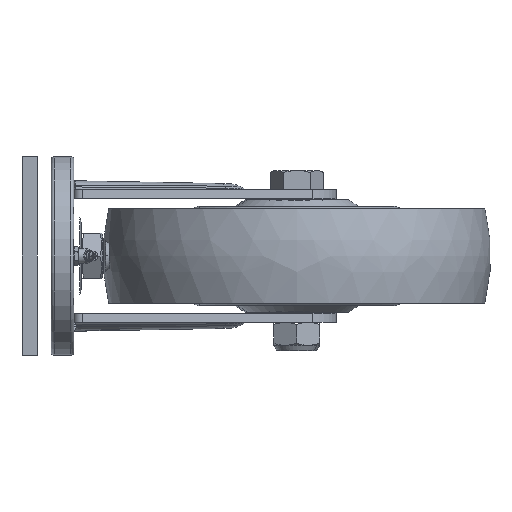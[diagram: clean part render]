
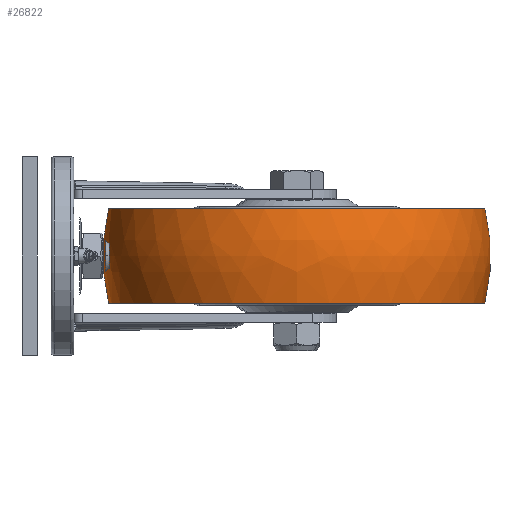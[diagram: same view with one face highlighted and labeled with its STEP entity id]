
A CAD part, left-side view. The second image highlights one B-rep face of the part: STEP entity #26822.
In plain terms, the highlighted free-form (B-spline) face has degree [3, 3] with [7, 4] control points.
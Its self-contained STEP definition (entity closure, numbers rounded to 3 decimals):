
#10133=CARTESIAN_POINT('',(46.,-180.,30.973));
#10134=DIRECTION('',(0.,0.,1.));
#10135=DIRECTION('',(-0.001,1.,0.));
#10136=AXIS2_PLACEMENT_3D('',#10133,#10134,#10135);
#10143=CARTESIAN_POINT('',(46.,-180.,-30.973));
#10144=DIRECTION('',(0.,0.,1.));
#10145=DIRECTION('',(-0.001,1.,0.));
#10146=AXIS2_PLACEMENT_3D('',#10143,#10144,#10145);
#16457=CARTESIAN_POINT('',(46.,-180.5,0.));
#16458=DIRECTION('',(-1.,-0.001,0.));
#16459=DIRECTION('',(0.001,-0.97,-0.245));
#16460=AXIS2_PLACEMENT_3D('',#16457,#16458,#16459);
#16462=CARTESIAN_POINT('',(46.,-179.5,0.));
#16463=DIRECTION('',(1.,0.001,0.));
#16464=DIRECTION('',(-0.001,0.97,-0.245));
#16465=AXIS2_PLACEMENT_3D('',#16462,#16463,#16464);
#17397=CARTESIAN_POINT('',(45.927,-56.85,
30.973));
#17398=CARTESIAN_POINT('',(46.073,-303.15,
30.973));
#17399=VERTEX_POINT('',#17397);
#17400=VERTEX_POINT('',#17398);
#17401=CARTESIAN_POINT('',(45.927,-56.85,
-30.973));
#17402=CARTESIAN_POINT('',(46.073,-303.15,
-30.973));
#17403=VERTEX_POINT('',#17401);
#17404=VERTEX_POINT('',#17402);
#26787=CARTESIAN_POINT('',(53.786,-302.59,
32.185));
#26788=CARTESIAN_POINT('',(54.14,-308.16,
10.969));
#26789=CARTESIAN_POINT('',(54.14,-308.16,
-10.969));
#26790=CARTESIAN_POINT('',(53.786,-302.59,
-32.185));
#26791=CARTESIAN_POINT('',(-21.656,-307.382,
32.185));
#26792=CARTESIAN_POINT('',(-24.73,-313.17,
10.969));
#26793=CARTESIAN_POINT('',(-24.73,-313.17,
-10.969));
#26794=CARTESIAN_POINT('',(-21.656,-307.382,
-32.185));
#26795=CARTESIAN_POINT('',(-76.792,-255.667,
32.185));
#26796=CARTESIAN_POINT('',(-82.372,-259.105,
10.969));
#26797=CARTESIAN_POINT('',(-82.372,-259.105,
-10.969));
#26798=CARTESIAN_POINT('',(-76.792,-255.667,
-32.185));
#26799=CARTESIAN_POINT('',(-76.837,-180.073,
32.185));
#26800=CARTESIAN_POINT('',(-82.419,-180.076,
10.969));
#26801=CARTESIAN_POINT('',(-82.419,-180.076,
-10.969));
#26802=CARTESIAN_POINT('',(-76.837,-180.073,
-32.185));
#26803=CARTESIAN_POINT('',(-76.882,-104.479,
32.185));
#26804=CARTESIAN_POINT('',(-82.466,-101.048,
10.969));
#26805=CARTESIAN_POINT('',(-82.466,-101.048,
-10.969));
#26806=CARTESIAN_POINT('',(-76.882,-104.479,
-32.185));
#26807=CARTESIAN_POINT('',(-21.807,-52.699,
32.185));
#26808=CARTESIAN_POINT('',(-24.888,-46.915,
10.969));
#26809=CARTESIAN_POINT('',(-24.888,-46.915,
-10.969));
#26810=CARTESIAN_POINT('',(-21.807,-52.699,
-32.185));
#26811=CARTESIAN_POINT('',(53.64,-57.401,
32.185));
#26812=CARTESIAN_POINT('',(53.987,-51.83,
10.969));
#26813=CARTESIAN_POINT('',(53.987,-51.83,
-10.969));
#26814=CARTESIAN_POINT('',(53.64,-57.401,
-32.185));
#26815=(BOUNDED_SURFACE()B_SPLINE_SURFACE(3,3,((#26787,#26788,#26789,#26790),(
#26791,#26792,#26793,#26794),(#26795,#26796,#26797,#26798),(#26799,#26800,
#26801,#26802),(#26803,#26804,#26805,#26806),(#26807,#26808,#26809,#26810),(
#26811,#26812,#26813,#26814)),.UNSPECIFIED.,.F.,.F.,.F.)B_SPLINE_SURFACE_WITH_KNOTS((4,3,4),(4,4),(0.,1.,2.),(0.,1.),.UNSPECIFIED.)GEOMETRIC_REPRESENTATION_ITEM()RATIONAL_B_SPLINE_SURFACE(((1.207,1.181,
1.181,1.207),(0.953,0.932,
0.932,0.953),(0.953,0.932,
0.932,0.953),(1.207,1.181,
1.181,1.207),(0.953,0.932,
0.932,0.953),(0.953,0.932,
0.932,0.953),(1.207,1.181,
1.181,1.207)))REPRESENTATION_ITEM('')SURFACE());
#26816=ORIENTED_EDGE('',*,*,#17695,.T.);
#26817=ORIENTED_EDGE('',*,*,#26770,.F.);
#26818=ORIENTED_EDGE('',*,*,#17722,.F.);
#26819=ORIENTED_EDGE('',*,*,#26767,.T.);
#26820=EDGE_LOOP('',(#26816,#26817,#26818,#26819));
#26821=FACE_OUTER_BOUND('',#26820,.F.);
#26822=ADVANCED_FACE('',(#26821),#26815,.T.);
#10137=CIRCLE('',#10136,123.15);
#10147=CIRCLE('',#10146,123.15);
#16461=CIRCLE('',#16460,126.5);
#16466=CIRCLE('',#16465,126.5);
#17695=EDGE_CURVE('',#17399,#17400,#10137,.T.);
#17722=EDGE_CURVE('',#17403,#17404,#10147,.T.);
#26767=EDGE_CURVE('',#17403,#17399,#16466,.T.);
#26770=EDGE_CURVE('',#17404,#17400,#16461,.T.);
